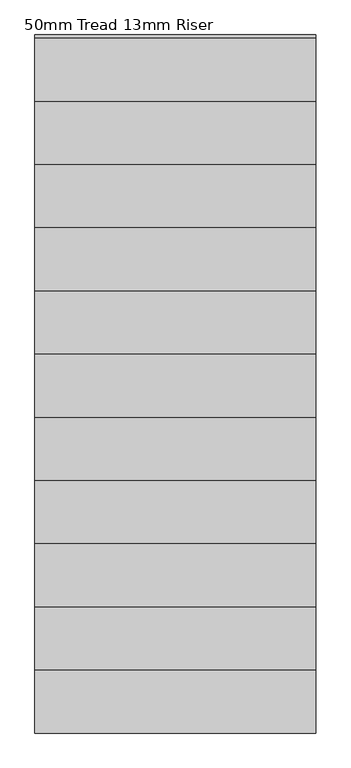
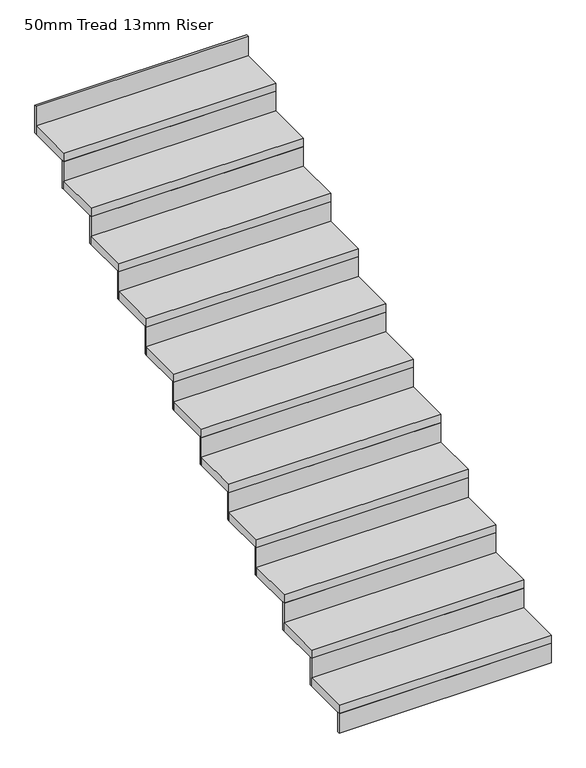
"""IFC4 building model written with IfcOpenShell, lengths in millimetres: stair flight geometry, 50mm Tread 13mm Riser."""

import ifcopenshell
import ifcopenshell.guid

model = None  # the IFC model being written
_history = None  # IfcOwnerHistory: only IFC2X3 demands one
_inside = {}  # id of a spatial element -> (the spatial element, [elements in it])
_under = {}  # id of a project, library or spatial element -> (it, [spatial elements below it])
_declared = {}  # id of a project -> (the project, [libraries it declares])
_typed = {}  # id of a type object -> (the type object, [elements of that type])
_made_of = {}  # id of a material, layer set ... -> (it, [elements and type objects made of it])


def new_model(schema):
    """Start an empty IFC model of exactly this schema.

    Asked for "IFC4X3", IfcOpenShell would pick the latest addendum, in which some entities
    have other attributes; the version numbers below select the first issue.
    IFC2X3 requires an IfcOwnerHistory on every rooted entity: one is made here for all.
    """
    global model, _history
    if schema == "IFC4X3":
        model = ifcopenshell.file(schema_version=(4, 3, 0, 0))
    else:
        model = ifcopenshell.file(schema=schema)
    _inside.clear()
    _under.clear()
    _declared.clear()
    _typed.clear()
    _made_of.clear()
    _history = None
    if model.schema == "IFC2X3":
        org = make("IfcOrganization", Name="unknown")
        user = make(
            "IfcPersonAndOrganization",
            ThePerson=make("IfcPerson", FamilyName="unknown"),
            TheOrganization=org,
        )
        app = make(
            "IfcApplication",
            ApplicationDeveloper=org,
            Version="unknown",
            ApplicationFullName="unknown",
            ApplicationIdentifier="unknown",
        )
        _history = make(
            "IfcOwnerHistory",
            OwningUser=user,
            OwningApplication=app,
            ChangeAction="ADDED",
            CreationDate=0,
        )
    return model


def make(cls, **values):
    """One entity of the class cls with the attributes given. An attribute that is None is left unset."""
    return model.create_entity(
        cls, **{name: value for name, value in values.items() if value is not None}
    )


def rooted(cls, **values):
    """An entity with a GlobalId (a new one), such as an element, a storey or a relation."""
    return make(cls, GlobalId=ifcopenshell.guid.new(), OwnerHistory=_history, **values)


def si_unit(unit_type, name, prefix=None):
    """IfcSIUnit, for example si_unit("LENGTHUNIT", "METRE", prefix="MILLI")."""
    return make("IfcSIUnit", UnitType=unit_type, Prefix=prefix, Name=name)


def assignment(units):
    """IfcUnitAssignment: the units of a project."""
    return None if units is None else make("IfcUnitAssignment", Units=units)


def point(xyz):
    """IfcCartesianPoint."""
    return None if xyz is None else make("IfcCartesianPoint", Coordinates=xyz)


def direction(xyz):
    """IfcDirection."""
    return None if xyz is None else make("IfcDirection", DirectionRatios=xyz)


def frame(location, z_axis=None, x_axis=None):
    """IfcAxis2Placement3D, a coordinate frame: its origin and axes. An axis left out is left unset."""
    return make(
        "IfcAxis2Placement3D",
        Location=point(location),
        Axis=direction(z_axis),
        RefDirection=direction(x_axis),
    )


def origin():
    """The frame at (0, 0, 0) with its axes left unset."""
    return frame((0.0, 0.0, 0.0))


def place(relative_to, where):
    """IfcLocalPlacement: puts the frame where relative to a parent placement (None: the world)."""
    return make(
        "IfcLocalPlacement", PlacementRelTo=relative_to, RelativePlacement=where
    )


def context(
    kind, dimensions, precision=None, world=None, true_north=None, identifier=None
):
    """IfcGeometricRepresentationContext, for example the 3D "Model" context."""
    return make(
        "IfcGeometricRepresentationContext",
        ContextIdentifier=identifier,
        ContextType=kind,
        CoordinateSpaceDimension=dimensions,
        Precision=precision,
        WorldCoordinateSystem=world,
        TrueNorth=true_north,
    )


def project(units=None, contexts=None):
    """IfcProject with its units and contexts."""
    return rooted(
        "IfcProject",
        Name="project",
        RepresentationContexts=contexts,
        UnitsInContext=assignment(units),
    )


def spatial(cls, under=None, at=None, **own):
    """A site, building, storey or space (cls), placed at a placement, below another one or the project."""
    s = rooted(cls, ObjectPlacement=at, **own)
    if under is not None:
        _under.setdefault(under.id(), (under, []))[1].append(s)
    return s


def polyline(points):
    """IfcPolyline through the points."""
    return make("IfcPolyline", Points=[point(p) for p in points])


def outline(outer, holes=None, kind="AREA"):
    """IfcArbitraryClosedProfileDef: a profile drawn as a closed curve; with holes, ...WithVoids."""
    if holes is None:
        return make("IfcArbitraryClosedProfileDef", ProfileType=kind, OuterCurve=outer)
    return make(
        "IfcArbitraryProfileDefWithVoids",
        ProfileType=kind,
        OuterCurve=outer,
        InnerCurves=holes,
    )


def extrude(swept, where, along, depth):
    """IfcExtrudedAreaSolid: the profile swept, set in the frame where, extruded along a direction by depth."""
    return make(
        "IfcExtrudedAreaSolid",
        SweptArea=swept,
        Position=where,
        ExtrudedDirection=direction(along),
        Depth=depth,
    )


def shape(context_of_items, identifier, shape_type, items):
    """IfcShapeRepresentation: the items that make up one representation, for example the "Body"."""
    return make(
        "IfcShapeRepresentation",
        ContextOfItems=context_of_items,
        RepresentationIdentifier=identifier,
        RepresentationType=shape_type,
        Items=items,
    )


def source(mapping_origin, context_of_items, identifier, shape_type, items):
    """IfcRepresentationMap: a shape defined once, which mapped items show again and again."""
    return make(
        "IfcRepresentationMap",
        MappingOrigin=mapping_origin,
        MappedRepresentation=shape(context_of_items, identifier, shape_type, items),
    )


def transform(
    local_origin,
    x_axis=None,
    y_axis=None,
    z_axis=None,
    scale=None,
    scale2=None,
    scale3=None,
    uniform=True,
):
    """IfcCartesianTransformationOperator3D, or its non-uniform kind. x_axis, y_axis, z_axis: its Axis1, 2, 3."""
    if uniform:
        return make(
            "IfcCartesianTransformationOperator3D",
            Axis1=direction(x_axis),
            Axis2=direction(y_axis),
            LocalOrigin=point(local_origin),
            Scale=scale,
            Axis3=direction(z_axis),
        )
    return make(
        "IfcCartesianTransformationOperator3DnonUniform",
        Axis1=direction(x_axis),
        Axis2=direction(y_axis),
        LocalOrigin=point(local_origin),
        Scale=scale,
        Axis3=direction(z_axis),
        Scale2=scale2,
        Scale3=scale3,
    )


def mapped(mapping_source, mapping_target):
    """IfcMappedItem: shows the shape of a source again, moved by a transform."""
    return make(
        "IfcMappedItem", MappingSource=mapping_source, MappingTarget=mapping_target
    )


def made_of(thing, what):
    """Note that an element or type object is made of a material, layer set ...; save() writes the relation."""
    if what is not None:
        _made_of.setdefault(what.id(), (what, []))[1].append(thing)
    return thing


def element(
    cls,
    number,
    at=None,
    inside=None,
    cuts=None,
    type_object=None,
    material=None,
    context=None,
    identifier="Body",
    shape_type=None,
    held_by="IfcProductDefinitionShape",
    body=None,
    shapes=None,
    **own,
):
    """One element of the class cls, such as IfcWall. Its Tag is "e" and its number.

    at: its placement. inside: the storey or other place that contains it. cuts: it is an
    opening in that element (IfcRelVoidsElement). A single representation is given by context,
    identifier, shape_type and body (its items); several are given by shapes. held_by: the class
    of the entity that holds the representations. save() writes the other relations.
    """
    e = rooted(cls, Tag="e%d" % number, ObjectPlacement=at, **own)
    if body is not None:
        shapes = [shape(context, identifier, shape_type, body)]
    if shapes is not None:
        e.Representation = make(held_by, Representations=shapes)
    if inside is not None:
        _inside.setdefault(inside.id(), (inside, []))[1].append(e)
    if cuts is not None:
        rooted(
            "IfcRelVoidsElement", RelatingBuildingElement=cuts, RelatedOpeningElement=e
        )
    if type_object is not None:
        _typed.setdefault(type_object.id(), (type_object, []))[1].append(e)
    return made_of(e, material)


def aggregate(whole, parts):
    """IfcRelAggregates: a whole, such as a stair, and the parts it consists of."""
    return rooted("IfcRelAggregates", RelatingObject=whole, RelatedObjects=parts)


def save(model, path):
    """Write the relations noted so far, then the file.

    IfcRelAggregates (storeys below a building ...), IfcRelContainedInSpatialStructure (elements
    in a storey), IfcRelDefinesByType, IfcRelAssociatesMaterial and IfcRelDeclares: one each for
    every whole, place, type object, material and project.
    """
    for whole, parts in _under.values():
        aggregate(whole, parts)
    for where, things in _inside.values():
        rooted(
            "IfcRelContainedInSpatialStructure",
            RelatedElements=things,
            RelatingStructure=where,
        )
    for kind, things in _typed.values():
        rooted("IfcRelDefinesByType", RelatedObjects=things, RelatingType=kind)
    for what, things in _made_of.values():
        rooted("IfcRelAssociatesMaterial", RelatedObjects=things, RelatingMaterial=what)
    for by, libraries in _declared.values():
        rooted("IfcRelDeclares", RelatingContext=by, RelatedDefinitions=libraries)
    model.write(path)


def stair_flight_50mm_tread_13mm_riser_a6df468b(model_context):
    return source(origin(), model_context, "Body", "SweptSolid", [
        extrude(outline(polyline([(-19669.5693283, 42681.9991708), (-19669.5693283, 42669.4991708), (-20869.5693283, 42669.4991708), (-20869.5693283, 42681.9991708), (-19669.5693283, 42681.9991708)])), frame((0.0, 0.0, 42720.0), z_axis=(0.0, 0.0, 1.0), x_axis=(1.0, 0.0, 0.0)), (0.0, 0.0, 1.0), 116.6666667),
        extrude(outline(polyline([(-20869.5693283, 42939.4991708), (-19669.5693283, 42939.4991708), (-19669.5693283, 42669.4991708), (-20869.5693283, 42669.4991708), (-20869.5693283, 42939.4991708)])), frame((0.0, 0.0, 42836.6666667), z_axis=(0.0, 0.0, 1.0), x_axis=(1.0, 0.0, 0.0)), (0.0, 0.0, 1.0), 50.0),
        extrude(outline(polyline([(-19669.5693283, 42951.9991708), (-19669.5693283, 42939.4991708), (-20869.5693283, 42939.4991708), (-20869.5693283, 42951.9991708), (-19669.5693283, 42951.9991708)])), frame((0.0, 0.0, 42836.6666667), z_axis=(0.0, 0.0, 1.0), x_axis=(1.0, 0.0, 0.0)), (0.0, 0.0, 1.0), 166.6666667),
        extrude(outline(polyline([(-20869.5693283, 43209.4991708), (-19669.5693283, 43209.4991708), (-19669.5693283, 42939.4991708), (-20869.5693283, 42939.4991708), (-20869.5693283, 43209.4991708)])), frame((0.0, 0.0, 43003.3333333), z_axis=(0.0, 0.0, 1.0), x_axis=(1.0, 0.0, 0.0)), (0.0, 0.0, 1.0), 50.0),
        extrude(outline(polyline([(-19669.5693283, 43221.9991708), (-19669.5693283, 43209.4991708), (-20869.5693283, 43209.4991708), (-20869.5693283, 43221.9991708), (-19669.5693283, 43221.9991708)])), frame((0.0, 0.0, 43003.3333333), z_axis=(0.0, 0.0, 1.0), x_axis=(1.0, 0.0, 0.0)), (0.0, 0.0, 1.0), 166.6666667),
        extrude(outline(polyline([(-20869.5693283, 43479.4991708), (-19669.5693283, 43479.4991708), (-19669.5693283, 43209.4991708), (-20869.5693283, 43209.4991708), (-20869.5693283, 43479.4991708)])), frame((0.0, 0.0, 43170.0), z_axis=(0.0, 0.0, 1.0), x_axis=(1.0, 0.0, 0.0)), (0.0, 0.0, 1.0), 50.0),
        extrude(outline(polyline([(-19669.5693283, 43491.9991708), (-19669.5693283, 43479.4991708), (-20869.5693283, 43479.4991708), (-20869.5693283, 43491.9991708), (-19669.5693283, 43491.9991708)])), frame((0.0, 0.0, 43170.0), z_axis=(0.0, 0.0, 1.0), x_axis=(1.0, 0.0, 0.0)), (0.0, 0.0, 1.0), 166.6666667),
        extrude(outline(polyline([(-20869.5693283, 43749.4991708), (-19669.5693283, 43749.4991708), (-19669.5693283, 43479.4991708), (-20869.5693283, 43479.4991708), (-20869.5693283, 43749.4991708)])), frame((0.0, 0.0, 43336.6666667), z_axis=(0.0, 0.0, 1.0), x_axis=(1.0, 0.0, 0.0)), (0.0, 0.0, 1.0), 50.0),
        extrude(outline(polyline([(-19669.5693283, 43761.9991708), (-19669.5693283, 43749.4991708), (-20869.5693283, 43749.4991708), (-20869.5693283, 43761.9991708), (-19669.5693283, 43761.9991708)])), frame((0.0, 0.0, 43336.6666667), z_axis=(0.0, 0.0, 1.0), x_axis=(1.0, 0.0, 0.0)), (0.0, 0.0, 1.0), 166.6666667),
        extrude(outline(polyline([(-20869.5693283, 44019.4991708), (-19669.5693283, 44019.4991708), (-19669.5693283, 43749.4991708), (-20869.5693283, 43749.4991708), (-20869.5693283, 44019.4991708)])), frame((0.0, 0.0, 43503.3333333), z_axis=(0.0, 0.0, 1.0), x_axis=(1.0, 0.0, 0.0)), (0.0, 0.0, 1.0), 50.0),
        extrude(outline(polyline([(-19669.5693283, 44031.9991708), (-19669.5693283, 44019.4991708), (-20869.5693283, 44019.4991708), (-20869.5693283, 44031.9991708), (-19669.5693283, 44031.9991708)])), frame((0.0, 0.0, 43503.3333333), z_axis=(0.0, 0.0, 1.0), x_axis=(1.0, 0.0, 0.0)), (0.0, 0.0, 1.0), 166.6666667),
        extrude(outline(polyline([(-20869.5693283, 44289.4991708), (-19669.5693283, 44289.4991708), (-19669.5693283, 44019.4991708), (-20869.5693283, 44019.4991708), (-20869.5693283, 44289.4991708)])), frame((0.0, 0.0, 43670.0), z_axis=(0.0, 0.0, 1.0), x_axis=(1.0, 0.0, 0.0)), (0.0, 0.0, 1.0), 50.0),
        extrude(outline(polyline([(-19669.5693283, 44301.9991708), (-19669.5693283, 44289.4991708), (-20869.5693283, 44289.4991708), (-20869.5693283, 44301.9991708), (-19669.5693283, 44301.9991708)])), frame((0.0, 0.0, 43670.0), z_axis=(0.0, 0.0, 1.0), x_axis=(1.0, 0.0, 0.0)), (0.0, 0.0, 1.0), 166.6666667),
        extrude(outline(polyline([(-20869.5693283, 44559.4991708), (-19669.5693283, 44559.4991708), (-19669.5693283, 44289.4991708), (-20869.5693283, 44289.4991708), (-20869.5693283, 44559.4991708)])), frame((0.0, 0.0, 43836.6666667), z_axis=(0.0, 0.0, 1.0), x_axis=(1.0, 0.0, 0.0)), (0.0, 0.0, 1.0), 50.0),
        extrude(outline(polyline([(-19669.5693283, 44571.9991708), (-19669.5693283, 44559.4991708), (-20869.5693283, 44559.4991708), (-20869.5693283, 44571.9991708), (-19669.5693283, 44571.9991708)])), frame((0.0, 0.0, 43836.6666667), z_axis=(0.0, 0.0, 1.0), x_axis=(1.0, 0.0, 0.0)), (0.0, 0.0, 1.0), 166.6666667),
        extrude(outline(polyline([(-20869.5693283, 44829.4991708), (-19669.5693283, 44829.4991708), (-19669.5693283, 44559.4991708), (-20869.5693283, 44559.4991708), (-20869.5693283, 44829.4991708)])), frame((0.0, 0.0, 44003.3333333), z_axis=(0.0, 0.0, 1.0), x_axis=(1.0, 0.0, 0.0)), (0.0, 0.0, 1.0), 50.0),
        extrude(outline(polyline([(-19669.5693283, 44841.9991708), (-19669.5693283, 44829.4991708), (-20869.5693283, 44829.4991708), (-20869.5693283, 44841.9991708), (-19669.5693283, 44841.9991708)])), frame((0.0, 0.0, 44003.3333333), z_axis=(0.0, 0.0, 1.0), x_axis=(1.0, 0.0, 0.0)), (0.0, 0.0, 1.0), 166.6666667),
        extrude(outline(polyline([(-20869.5693283, 45099.4991708), (-19669.5693283, 45099.4991708), (-19669.5693283, 44829.4991708), (-20869.5693283, 44829.4991708), (-20869.5693283, 45099.4991708)])), frame((0.0, 0.0, 44170.0), z_axis=(0.0, 0.0, 1.0), x_axis=(1.0, 0.0, 0.0)), (0.0, 0.0, 1.0), 50.0),
        extrude(outline(polyline([(-19669.5693283, 45111.9991708), (-19669.5693283, 45099.4991708), (-20869.5693283, 45099.4991708), (-20869.5693283, 45111.9991708), (-19669.5693283, 45111.9991708)])), frame((0.0, 0.0, 44170.0), z_axis=(0.0, 0.0, 1.0), x_axis=(1.0, 0.0, 0.0)), (0.0, 0.0, 1.0), 166.6666667),
        extrude(outline(polyline([(-20869.5693283, 45369.4991708), (-19669.5693283, 45369.4991708), (-19669.5693283, 45099.4991708), (-20869.5693283, 45099.4991708), (-20869.5693283, 45369.4991708)])), frame((0.0, 0.0, 44336.6666667), z_axis=(0.0, 0.0, 1.0), x_axis=(1.0, 0.0, 0.0)), (0.0, 0.0, 1.0), 50.0),
        extrude(outline(polyline([(-19669.5693283, 45381.9991708), (-19669.5693283, 45369.4991708), (-20869.5693283, 45369.4991708), (-20869.5693283, 45381.9991708), (-19669.5693283, 45381.9991708)])), frame((0.0, 0.0, 44336.6666667), z_axis=(0.0, 0.0, 1.0), x_axis=(1.0, 0.0, 0.0)), (0.0, 0.0, 1.0), 166.6666667),
        extrude(outline(polyline([(-19669.5693283, 45651.9991708), (-19669.5693283, 45639.4991708), (-20869.5693283, 45639.4991708), (-20869.5693283, 45651.9991708), (-19669.5693283, 45651.9991708)])), frame((0.0, 0.0, 44503.3333333), z_axis=(0.0, 0.0, 1.0), x_axis=(1.0, 0.0, 0.0)), (0.0, 0.0, 1.0), 166.6666667),
        extrude(outline(polyline([(-20869.5693283, 45639.4991708), (-19669.5693283, 45639.4991708), (-19669.5693283, 45369.4991708), (-20869.5693283, 45369.4991708), (-20869.5693283, 45639.4991708)])), frame((0.0, 0.0, 44503.3333333), z_axis=(0.0, 0.0, 1.0), x_axis=(1.0, 0.0, 0.0)), (0.0, 0.0, 1.0), 50.0),
    ])


if __name__ == "__main__":
    model = new_model("IFC4")
    model_context = context("Model", 3, world=origin())
    ifc_project = project(units=[si_unit("LENGTHUNIT", "METRE", prefix="MILLI")], contexts=[model_context])
    site = spatial("IfcSite", under=ifc_project)
    building = spatial("IfcBuilding", under=site)
    placement = place(None, origin())
    stair_flight_50mm_tread_13mm_riser_shape = stair_flight_50mm_tread_13mm_riser_a6df468b(model_context)
    element("IfcStairFlight", 1, ObjectType="50mm Tread 13mm Riser", at=placement, inside=building, context=model_context, shape_type="MappedRepresentation", body=[
        mapped(stair_flight_50mm_tread_13mm_riser_shape, transform((0.0, 0.0, 0.0), x_axis=(1.0, 0.0, 0.0), y_axis=(0.0, 1.0, 0.0), z_axis=(0.0, 0.0, 1.0))),
    ])
    save(model, "model.ifc")
